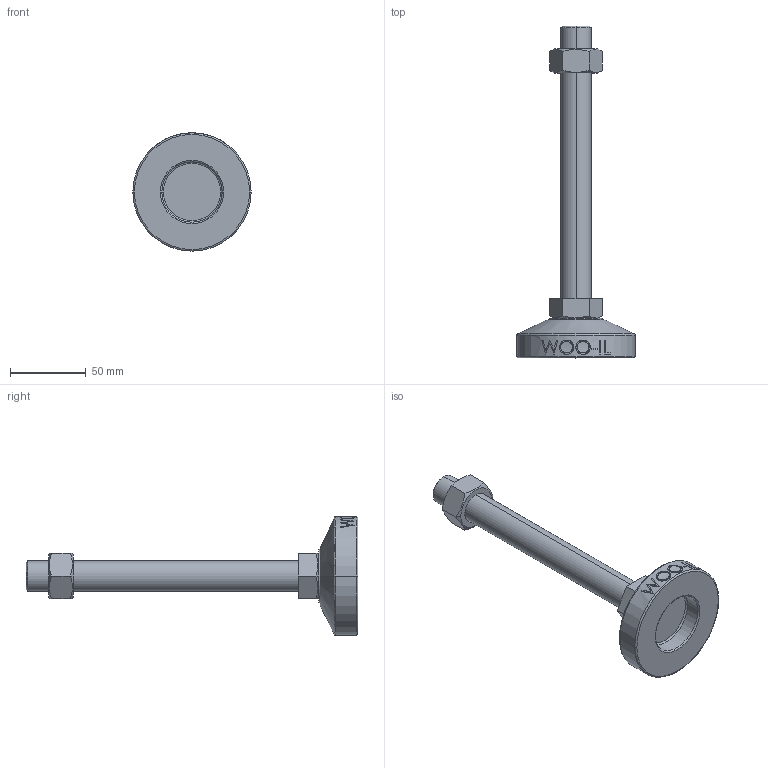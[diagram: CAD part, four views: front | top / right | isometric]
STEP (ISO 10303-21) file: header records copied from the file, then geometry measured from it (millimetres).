
FILE_DESCRIPTION (( 'STEP AP214' ), '1' );
FILE_NAME ('MFZ78-M20-180.step', '2021-01-15T07:08:54', ( '' ), ( '' ), 'SwSTEP 2.0', 'SolidWorks 2019', '' );
FILE_SCHEMA (( 'AUTOMOTIVE_DESIGN' ));
Length unit declared in the file: millimetre
Products named in the file (2): MFZ78-M20-180
Bounding box: 78 x 219 x 78 mm (x, y, z)
Volume: 160980 mm3; surface area: 32645 mm2
Topology: 3 solids, 3 shells, 106 faces, 243 edges, 154 vertices
Faces by surface type: plane 48, cylinder 18, bspline 16, cone 14, torus 10
Entity records: 4596 total; most frequent: CARTESIAN_POINT 2253, ORIENTED_EDGE 486, DIRECTION 439, EDGE_CURVE 243, AXIS2_PLACEMENT_3D 170, VERTEX_POINT 154, EDGE_LOOP 119, ADVANCED_FACE 106
